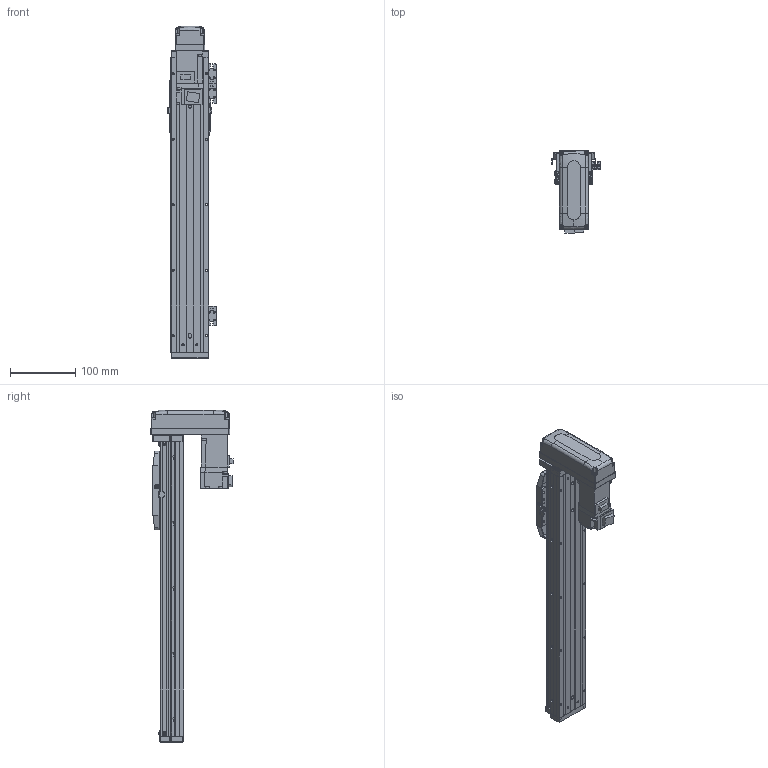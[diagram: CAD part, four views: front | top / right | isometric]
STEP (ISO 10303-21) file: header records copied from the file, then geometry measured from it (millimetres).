
FILE_DESCRIPTION (( 'STEP AP203' ), '1' );
FILE_NAME ('CTHA50-300-BM-M10-C4L.step', '2022-03-19T06:03:08', ( '微软用户' ), ( '微软中国' ), 'SwSTEP 2.0', 'SolidWorks 2020', '' );
FILE_SCHEMA (( 'CONFIG_CONTROL_DESIGN' ));
Length unit declared in the file: millimetre
Products named in the file (20): KTHA50-004; GBT 70.1-M4×12; CTHA50-030; KTHA50-005; CTHA60-016; CTHA50-031; GB¨uT 70.2-M3¡Á6_M3¡Á6; GBT 70.3-M3℅6; EE_SX911P_R; CTHA50-015-2_CTHA60-015-2; CTHA60-021; GBT77-2000 M3×3; CTHA60-033; GBT 70.1-M3℅6; HG-KR13（三菱）; GBT 70.1-M3×15; KTHA50-001_450; CTHA60-017; CTHA50-002; CTHA50-300-BM-M10-C4L
Assembly tree (60 placements, depth 2):
  CTHA50-300-BM-M10-C4L
    KTHA50-001_450
    KTHA50-004
    KTHA50-005
    GB¨uT 70.2-M3¡Á6_M3¡Á6  x10
    EE_SX911P_R  x3
    GBT77-2000 M3×3  x6
    GBT 70.1-M3℅6  x6
    CTHA60-017  x3
    GBT 70.1-M4×12  x10
    CTHA60-016  x2
    CTHA60-021  x2
    HG-KR13（三菱）
    CTHA50-002
    CTHA50-030  x2
    CTHA50-031
    GBT 70.3-M3℅6  x4
    CTHA50-015-2_CTHA60-015-2
    CTHA60-033
    GBT 70.1-M3×15  x4
Bounding box: 74.12 x 125.3 x 507 mm (x, y, z)
Volume: 1091583.7 mm3; surface area: 283021.5 mm2
Topology: 62 solids, 62 shells, 2493 faces, 5911 edges, 3618 vertices
Faces by surface type: plane 1410, cylinder 576, cone 349, torus 108, bspline 26, sphere 24
Entity records: 42039 total; most frequent: CARTESIAN_POINT 7771, DIRECTION 6535, ORIENTED_EDGE 6330, EDGE_CURVE 3165, VECTOR 2211, LINE 2211, AXIS2_PLACEMENT_3D 2162, VERTEX_POINT 1992
